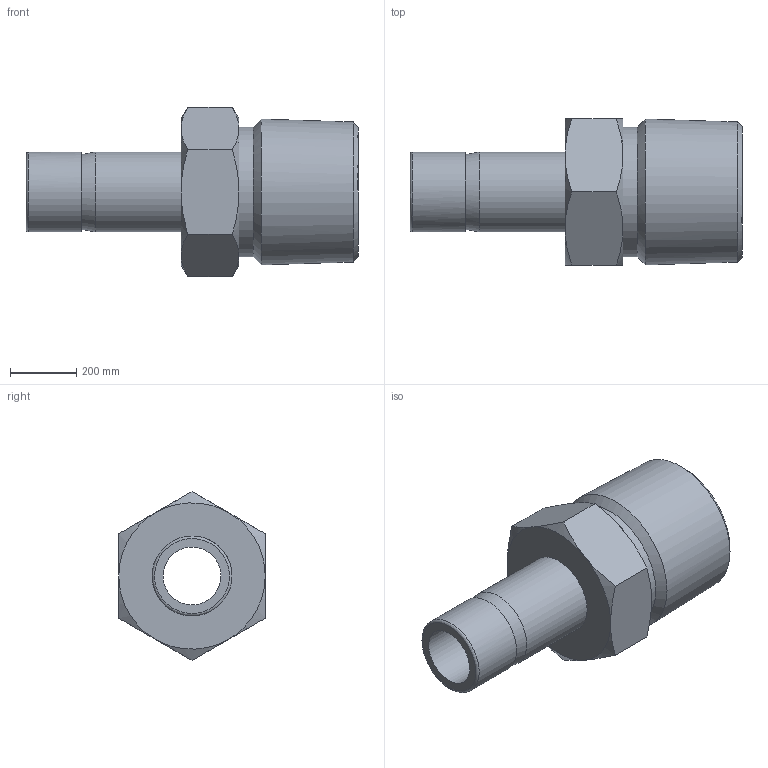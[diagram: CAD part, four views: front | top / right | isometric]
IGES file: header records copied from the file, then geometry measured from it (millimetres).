
Global section: file name: SMA-6-6; native system: Autodesk Inventor 2016; preprocessor: unknown; author: DESIGNPC2; date: 20151221.095021; units: millimetre
Bounding box: 1005.84 x 443.48 x 512.09 mm (x, y, z)
Volume: 78454080.8 mm3; surface area: 1962372.6 mm2
Topology: 1 solids, 1 shells, 33 faces, 81 edges, 53 vertices
Faces by surface type: bspline 33
